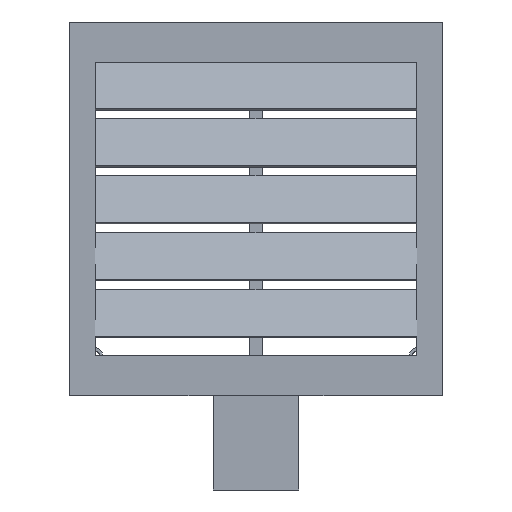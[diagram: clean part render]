
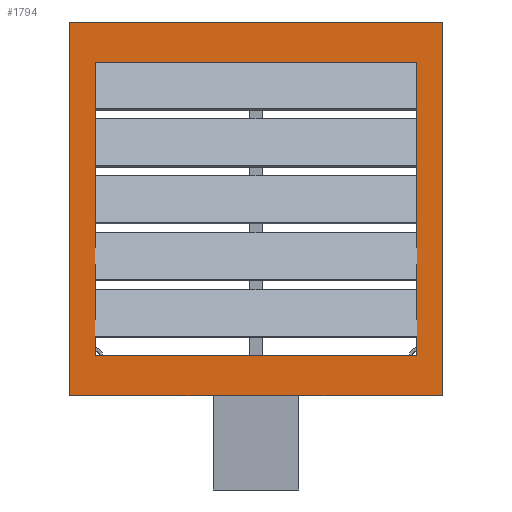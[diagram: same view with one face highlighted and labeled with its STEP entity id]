
A CAD part, front view. The second image highlights one B-rep face of the part: STEP entity #1794.
In plain terms, the highlighted planar face has unit normal (0, -1, 0).
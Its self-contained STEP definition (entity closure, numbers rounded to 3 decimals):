
#25=FACE_BOUND('',#233,.T.);
#140=FACE_OUTER_BOUND('',#232,.T.);
#232=EDGE_LOOP('',(#1600,#1601,#1602,#1603,#1604,#1605));
#233=EDGE_LOOP('',(#1606,#1607,#1608,#1609,#1610,#1611,#1612,#1613,#1614,
#1615,#1616,#1617,#1618,#1619,#1620,#1621,#1622,#1623,#1624,#1625,#1626,
#1627,#1628,#1629));
#249=LINE('',#2396,#480);
#253=LINE('',#2404,#484);
#254=LINE('',#2407,#485);
#270=LINE('',#2440,#501);
#273=LINE('',#2446,#504);
#296=LINE('',#2491,#527);
#299=LINE('',#2497,#530);
#322=LINE('',#2542,#553);
#325=LINE('',#2548,#556);
#348=LINE('',#2593,#579);
#351=LINE('',#2599,#582);
#376=LINE('',#2644,#607);
#386=LINE('',#2663,#617);
#387=LINE('',#2664,#618);
#388=LINE('',#2665,#619);
#389=LINE('',#2666,#620);
#396=LINE('',#2683,#627);
#415=LINE('',#2734,#646);
#425=LINE('',#2749,#656);
#426=LINE('',#2757,#657);
#428=LINE('',#2760,#659);
#429=LINE('',#2761,#660);
#430=LINE('',#2762,#661);
#431=LINE('',#2763,#662);
#440=LINE('',#2780,#671);
#444=LINE('',#2793,#675);
#458=LINE('',#2829,#689);
#463=LINE('',#2860,#694);
#464=LINE('',#2862,#695);
#465=LINE('',#2863,#696);
#480=VECTOR('',#1938,10.);
#484=VECTOR('',#1946,10.);
#485=VECTOR('',#1949,10.);
#501=VECTOR('',#1971,10.);
#504=VECTOR('',#1976,10.);
#527=VECTOR('',#2011,10.);
#530=VECTOR('',#2016,10.);
#553=VECTOR('',#2051,10.);
#556=VECTOR('',#2056,10.);
#579=VECTOR('',#2091,10.);
#582=VECTOR('',#2096,10.);
#607=VECTOR('',#2139,10.);
#617=VECTOR('',#2149,10.);
#618=VECTOR('',#2150,10.);
#619=VECTOR('',#2151,10.);
#620=VECTOR('',#2152,10.);
#627=VECTOR('',#2165,10.);
#646=VECTOR('',#2212,10.);
#656=VECTOR('',#2228,10.);
#657=VECTOR('',#2239,10.);
#659=VECTOR('',#2243,10.);
#660=VECTOR('',#2244,10.);
#661=VECTOR('',#2245,10.);
#662=VECTOR('',#2246,10.);
#671=VECTOR('',#2255,10.);
#675=VECTOR('',#2273,10.);
#689=VECTOR('',#2307,10.);
#694=VECTOR('',#2358,10.);
#695=VECTOR('',#2359,10.);
#696=VECTOR('',#2360,10.);
#700=VERTEX_POINT('',#2372);
#705=VERTEX_POINT('',#2383);
#710=VERTEX_POINT('',#2402);
#711=VERTEX_POINT('',#2406);
#718=VERTEX_POINT('',#2421);
#721=VERTEX_POINT('',#2427);
#725=VERTEX_POINT('',#2439);
#727=VERTEX_POINT('',#2445);
#736=VERTEX_POINT('',#2472);
#739=VERTEX_POINT('',#2478);
#743=VERTEX_POINT('',#2490);
#745=VERTEX_POINT('',#2496);
#754=VERTEX_POINT('',#2523);
#757=VERTEX_POINT('',#2529);
#761=VERTEX_POINT('',#2541);
#763=VERTEX_POINT('',#2547);
#772=VERTEX_POINT('',#2574);
#775=VERTEX_POINT('',#2580);
#779=VERTEX_POINT('',#2592);
#781=VERTEX_POINT('',#2598);
#792=VERTEX_POINT('',#2643);
#801=VERTEX_POINT('',#2661);
#807=VERTEX_POINT('',#2681);
#808=VERTEX_POINT('',#2682);
#826=VERTEX_POINT('',#2733);
#828=VERTEX_POINT('',#2747);
#830=VERTEX_POINT('',#2756);
#838=VERTEX_POINT('',#2778);
#855=VERTEX_POINT('',#2859);
#856=VERTEX_POINT('',#2861);
#869=EDGE_CURVE('',#705,#700,#249,.T.);
#873=EDGE_CURVE('',#700,#710,#253,.T.);
#874=EDGE_CURVE('',#711,#705,#254,.T.);
#890=EDGE_CURVE('',#721,#725,#270,.T.);
#893=EDGE_CURVE('',#727,#718,#273,.T.);
#916=EDGE_CURVE('',#739,#743,#296,.T.);
#919=EDGE_CURVE('',#745,#736,#299,.T.);
#942=EDGE_CURVE('',#757,#761,#322,.T.);
#945=EDGE_CURVE('',#763,#754,#325,.T.);
#968=EDGE_CURVE('',#775,#779,#348,.T.);
#971=EDGE_CURVE('',#781,#772,#351,.T.);
#996=EDGE_CURVE('',#792,#721,#376,.T.);
#1006=EDGE_CURVE('',#779,#801,#386,.T.);
#1007=EDGE_CURVE('',#761,#775,#387,.T.);
#1008=EDGE_CURVE('',#743,#757,#388,.T.);
#1009=EDGE_CURVE('',#725,#739,#389,.T.);
#1016=EDGE_CURVE('',#807,#808,#396,.T.);
#1043=EDGE_CURVE('',#801,#826,#415,.T.);
#1053=EDGE_CURVE('',#826,#828,#425,.T.);
#1057=EDGE_CURVE('',#830,#807,#426,.T.);
#1059=EDGE_CURVE('',#736,#727,#428,.T.);
#1060=EDGE_CURVE('',#754,#745,#429,.T.);
#1061=EDGE_CURVE('',#772,#763,#430,.T.);
#1062=EDGE_CURVE('',#808,#781,#431,.T.);
#1071=EDGE_CURVE('',#718,#838,#440,.T.);
#1078=EDGE_CURVE('',#828,#830,#444,.T.);
#1098=EDGE_CURVE('',#838,#792,#458,.T.);
#1111=EDGE_CURVE('',#710,#855,#463,.T.);
#1112=EDGE_CURVE('',#855,#856,#464,.T.);
#1113=EDGE_CURVE('',#856,#711,#465,.T.);
#1600=ORIENTED_EDGE('',*,*,#874,.T.);
#1601=ORIENTED_EDGE('',*,*,#869,.T.);
#1602=ORIENTED_EDGE('',*,*,#873,.T.);
#1603=ORIENTED_EDGE('',*,*,#1111,.T.);
#1604=ORIENTED_EDGE('',*,*,#1112,.T.);
#1605=ORIENTED_EDGE('',*,*,#1113,.T.);
#1606=ORIENTED_EDGE('',*,*,#1057,.T.);
#1607=ORIENTED_EDGE('',*,*,#1016,.T.);
#1608=ORIENTED_EDGE('',*,*,#1062,.T.);
#1609=ORIENTED_EDGE('',*,*,#971,.T.);
#1610=ORIENTED_EDGE('',*,*,#1061,.T.);
#1611=ORIENTED_EDGE('',*,*,#945,.T.);
#1612=ORIENTED_EDGE('',*,*,#1060,.T.);
#1613=ORIENTED_EDGE('',*,*,#919,.T.);
#1614=ORIENTED_EDGE('',*,*,#1059,.T.);
#1615=ORIENTED_EDGE('',*,*,#893,.T.);
#1616=ORIENTED_EDGE('',*,*,#1071,.T.);
#1617=ORIENTED_EDGE('',*,*,#1098,.T.);
#1618=ORIENTED_EDGE('',*,*,#996,.T.);
#1619=ORIENTED_EDGE('',*,*,#890,.T.);
#1620=ORIENTED_EDGE('',*,*,#1009,.T.);
#1621=ORIENTED_EDGE('',*,*,#916,.T.);
#1622=ORIENTED_EDGE('',*,*,#1008,.T.);
#1623=ORIENTED_EDGE('',*,*,#942,.T.);
#1624=ORIENTED_EDGE('',*,*,#1007,.T.);
#1625=ORIENTED_EDGE('',*,*,#968,.T.);
#1626=ORIENTED_EDGE('',*,*,#1006,.T.);
#1627=ORIENTED_EDGE('',*,*,#1043,.T.);
#1628=ORIENTED_EDGE('',*,*,#1053,.T.);
#1629=ORIENTED_EDGE('',*,*,#1078,.T.);
#1712=PLANE('',#1912);
#1794=ADVANCED_FACE('',(#140,#25),#1712,.T.);
#1912=AXIS2_PLACEMENT_3D('',#2858,#2356,#2357);
#1938=DIRECTION('',(1.,0.,0.));
#1946=DIRECTION('',(1.,0.,0.));
#1949=DIRECTION('',(1.,0.,0.));
#1971=DIRECTION('',(0.,0.,1.));
#1976=DIRECTION('',(0.,0.,-1.));
#2011=DIRECTION('',(0.,0.,1.));
#2016=DIRECTION('',(0.,0.,-1.));
#2051=DIRECTION('',(0.,0.,1.));
#2056=DIRECTION('',(0.,0.,-1.));
#2091=DIRECTION('',(0.,0.,1.));
#2096=DIRECTION('',(0.,0.,-1.));
#2139=DIRECTION('',(0.,0.,1.));
#2149=DIRECTION('',(0.,0.,1.));
#2150=DIRECTION('',(0.,0.,1.));
#2151=DIRECTION('',(0.,0.,1.));
#2152=DIRECTION('',(0.,0.,1.));
#2165=DIRECTION('',(0.,0.,-1.));
#2212=DIRECTION('',(0.,0.,1.));
#2228=DIRECTION('',(0.,0.,1.));
#2239=DIRECTION('',(0.,0.,-1.));
#2243=DIRECTION('',(0.,0.,-1.));
#2244=DIRECTION('',(0.,0.,-1.));
#2245=DIRECTION('',(0.,0.,-1.));
#2246=DIRECTION('',(0.,0.,-1.));
#2255=DIRECTION('',(0.,0.,-1.));
#2273=DIRECTION('',(1.,0.,0.));
#2307=DIRECTION('',(-1.,0.,0.));
#2356=DIRECTION('center_axis',(0.,-1.,0.));
#2357=DIRECTION('ref_axis',(0.,0.,-1.));
#2358=DIRECTION('',(0.,0.,1.));
#2359=DIRECTION('',(-1.,0.,0.));
#2360=DIRECTION('',(0.,0.,-1.));
#2372=CARTESIAN_POINT('',(39.,-14.,-170.));
#2383=CARTESIAN_POINT('',(-39.,-14.,-170.));
#2396=CARTESIAN_POINT('',(-170.,-14.,-170.));
#2402=CARTESIAN_POINT('',(170.,-14.,-170.));
#2404=CARTESIAN_POINT('',(-170.,-14.,-170.));
#2406=CARTESIAN_POINT('',(-170.,-14.,-170.));
#2407=CARTESIAN_POINT('',(-170.,-14.,-170.));
#2421=CARTESIAN_POINT('',(146.5,-14.,-90.328));
#2427=CARTESIAN_POINT('',(-146.5,-14.,-90.328));
#2439=CARTESIAN_POINT('',(-146.5,-14.,-87.5));
#2440=CARTESIAN_POINT('',(-146.5,-14.,-66.75));
#2445=CARTESIAN_POINT('',(146.5,-14.,-87.5));
#2446=CARTESIAN_POINT('',(146.5,-14.,66.75));
#2472=CARTESIAN_POINT('',(146.5,-14.,-38.578));
#2478=CARTESIAN_POINT('',(-146.5,-14.,-38.578));
#2490=CARTESIAN_POINT('',(-146.5,-14.,-35.75));
#2491=CARTESIAN_POINT('',(-146.5,-14.,-66.75));
#2496=CARTESIAN_POINT('',(146.5,-14.,-35.75));
#2497=CARTESIAN_POINT('',(146.5,-14.,66.75));
#2523=CARTESIAN_POINT('',(146.5,-14.,13.172));
#2529=CARTESIAN_POINT('',(-146.5,-14.,13.172));
#2541=CARTESIAN_POINT('',(-146.5,-14.,16.));
#2542=CARTESIAN_POINT('',(-146.5,-14.,-66.75));
#2547=CARTESIAN_POINT('',(146.5,-14.,16.));
#2548=CARTESIAN_POINT('',(146.5,-14.,66.75));
#2574=CARTESIAN_POINT('',(146.5,-14.,64.922));
#2580=CARTESIAN_POINT('',(-146.5,-14.,64.922));
#2592=CARTESIAN_POINT('',(-146.5,-14.,67.75));
#2593=CARTESIAN_POINT('',(-146.5,-14.,-66.75));
#2598=CARTESIAN_POINT('',(146.5,-14.,67.75));
#2599=CARTESIAN_POINT('',(146.5,-14.,66.75));
#2643=CARTESIAN_POINT('',(-146.5,-14.,-133.5));
#2644=CARTESIAN_POINT('',(-146.5,-14.,-66.75));
#2661=CARTESIAN_POINT('',(-146.5,-14.,116.672));
#2663=CARTESIAN_POINT('',(-146.5,-14.,-66.75));
#2664=CARTESIAN_POINT('',(-146.5,-14.,-66.75));
#2665=CARTESIAN_POINT('',(-146.5,-14.,-66.75));
#2666=CARTESIAN_POINT('',(-146.5,-14.,-66.75));
#2681=CARTESIAN_POINT('',(146.5,-14.,119.5));
#2682=CARTESIAN_POINT('',(146.5,-14.,116.672));
#2683=CARTESIAN_POINT('',(146.5,-14.,66.75));
#2733=CARTESIAN_POINT('',(-146.5,-14.,119.5));
#2734=CARTESIAN_POINT('',(-146.5,-14.,-66.75));
#2747=CARTESIAN_POINT('',(-146.5,-14.,133.5));
#2749=CARTESIAN_POINT('',(-146.5,-14.,-66.75));
#2756=CARTESIAN_POINT('',(146.5,-14.,133.5));
#2757=CARTESIAN_POINT('',(146.5,-14.,66.75));
#2760=CARTESIAN_POINT('',(146.5,-14.,66.75));
#2761=CARTESIAN_POINT('',(146.5,-14.,66.75));
#2762=CARTESIAN_POINT('',(146.5,-14.,66.75));
#2763=CARTESIAN_POINT('',(146.5,-14.,66.75));
#2778=CARTESIAN_POINT('',(146.5,-14.,-133.5));
#2780=CARTESIAN_POINT('',(146.5,-14.,66.75));
#2793=CARTESIAN_POINT('',(-73.25,-14.,133.5));
#2829=CARTESIAN_POINT('',(73.25,-14.,-133.5));
#2858=CARTESIAN_POINT('Origin',(0.,-14.,0.));
#2859=CARTESIAN_POINT('',(170.,-14.,170.));
#2860=CARTESIAN_POINT('',(170.,-14.,-170.));
#2861=CARTESIAN_POINT('',(-170.,-14.,170.));
#2862=CARTESIAN_POINT('',(170.,-14.,170.));
#2863=CARTESIAN_POINT('',(-170.,-14.,170.));
